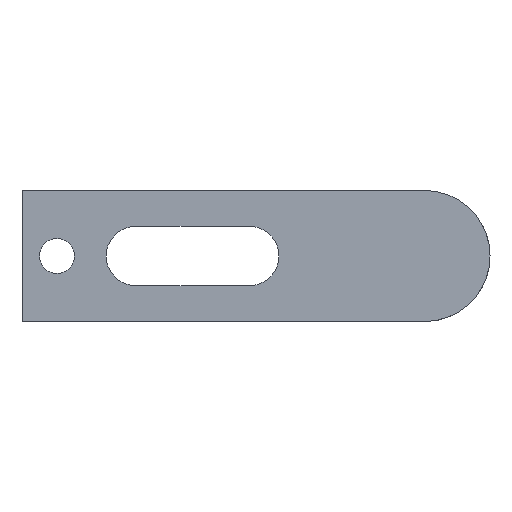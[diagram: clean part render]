
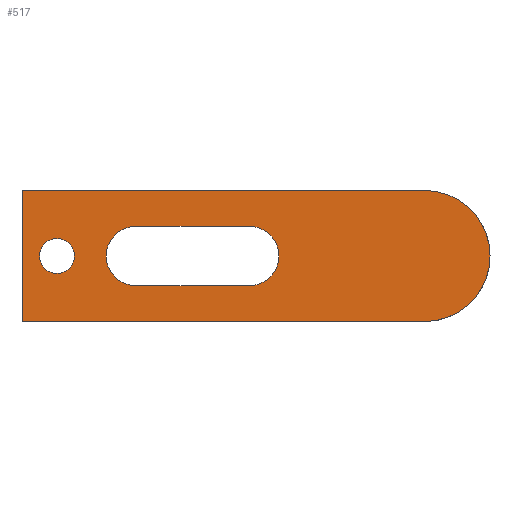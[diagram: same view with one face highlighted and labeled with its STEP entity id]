
A CAD part, front view. The second image highlights one B-rep face of the part: STEP entity #517.
In plain terms, the highlighted planar face has unit normal (0, -1, 0).
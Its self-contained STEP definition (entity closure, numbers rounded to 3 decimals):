
#290=CARTESIAN_POINT('Vertex',(-15.,0.,15.)) ;
#293=CARTESIAN_POINT('Axis2P3D Location',(-15.,0.,0.)) ;
#297=CARTESIAN_POINT('Vertex',(-15.,0.,-15.)) ;
#399=CARTESIAN_POINT('Line Origine',(-61.,0.,15.)) ;
#403=CARTESIAN_POINT('Vertex',(-107.,0.,15.)) ;
#426=CARTESIAN_POINT('Axis2P3D Location',(-107.,0.,15.)) ;
#431=CARTESIAN_POINT('Line Origine',(-61.,0.,-15.)) ;
#435=CARTESIAN_POINT('Vertex',(-107.,0.,-15.)) ;
#438=CARTESIAN_POINT('Line Origine',(-107.,0.,0.)) ;
#449=CARTESIAN_POINT('Axis2P3D Location',(-99.,0.,0.)) ;
#453=CARTESIAN_POINT('Vertex',(-95.,0.,0.)) ;
#455=CARTESIAN_POINT('Vertex',(-99.,0.,-4.)) ;
#458=CARTESIAN_POINT('Axis2P3D Location',(-99.,0.,0.)) ;
#462=CARTESIAN_POINT('Vertex',(-103.,0.,0.)) ;
#465=CARTESIAN_POINT('Axis2P3D Location',(-99.,0.,0.)) ;
#469=CARTESIAN_POINT('Vertex',(-99.,0.,4.)) ;
#472=CARTESIAN_POINT('Axis2P3D Location',(-99.,0.,0.)) ;
#483=CARTESIAN_POINT('Line Origine',(-68.,0.,-6.75)) ;
#487=CARTESIAN_POINT('Vertex',(-55.,0.,-6.75)) ;
#489=CARTESIAN_POINT('Vertex',(-81.,0.,-6.75)) ;
#492=CARTESIAN_POINT('Axis2P3D Location',(-81.,0.,0.)) ;
#496=CARTESIAN_POINT('Vertex',(-81.,0.,6.75)) ;
#499=CARTESIAN_POINT('Line Origine',(-68.,0.,6.75)) ;
#503=CARTESIAN_POINT('Vertex',(-55.,0.,6.75)) ;
#506=CARTESIAN_POINT('Axis2P3D Location',(-55.,0.,0.)) ;
#294=DIRECTION('Axis2P3D Direction',(0.,1.,0.)) ;
#400=DIRECTION('Vector Direction',(1.,0.,0.)) ;
#427=DIRECTION('Axis2P3D Direction',(0.,1.,0.)) ;
#428=DIRECTION('Axis2P3D XDirection',(0.,-0.,1.)) ;
#432=DIRECTION('Vector Direction',(1.,0.,0.)) ;
#439=DIRECTION('Vector Direction',(0.,0.,-1.)) ;
#450=DIRECTION('Axis2P3D Direction',(0.,1.,0.)) ;
#459=DIRECTION('Axis2P3D Direction',(0.,1.,0.)) ;
#466=DIRECTION('Axis2P3D Direction',(0.,1.,0.)) ;
#473=DIRECTION('Axis2P3D Direction',(0.,1.,0.)) ;
#484=DIRECTION('Vector Direction',(-1.,0.,0.)) ;
#493=DIRECTION('Axis2P3D Direction',(0.,1.,0.)) ;
#500=DIRECTION('Vector Direction',(1.,0.,0.)) ;
#507=DIRECTION('Axis2P3D Direction',(0.,1.,0.)) ;
#295=AXIS2_PLACEMENT_3D('Circle Axis2P3D',#293,#294,$) ;
#429=AXIS2_PLACEMENT_3D('Plane Axis2P3D',#426,#427,#428) ;
#451=AXIS2_PLACEMENT_3D('Circle Axis2P3D',#449,#450,$) ;
#460=AXIS2_PLACEMENT_3D('Circle Axis2P3D',#458,#459,$) ;
#467=AXIS2_PLACEMENT_3D('Circle Axis2P3D',#465,#466,$) ;
#474=AXIS2_PLACEMENT_3D('Circle Axis2P3D',#472,#473,$) ;
#494=AXIS2_PLACEMENT_3D('Circle Axis2P3D',#492,#493,$) ;
#508=AXIS2_PLACEMENT_3D('Circle Axis2P3D',#506,#507,$) ;
#444=ORIENTED_EDGE('',*,*,#437,.T.) ;
#445=ORIENTED_EDGE('',*,*,#299,.F.) ;
#446=ORIENTED_EDGE('',*,*,#405,.F.) ;
#447=ORIENTED_EDGE('',*,*,#442,.T.) ;
#478=ORIENTED_EDGE('',*,*,#457,.T.) ;
#479=ORIENTED_EDGE('',*,*,#464,.T.) ;
#480=ORIENTED_EDGE('',*,*,#471,.T.) ;
#481=ORIENTED_EDGE('',*,*,#476,.T.) ;
#512=ORIENTED_EDGE('',*,*,#491,.T.) ;
#513=ORIENTED_EDGE('',*,*,#498,.T.) ;
#514=ORIENTED_EDGE('',*,*,#505,.T.) ;
#515=ORIENTED_EDGE('',*,*,#510,.T.) ;
#482=FACE_BOUND('',#477,.T.) ;
#516=FACE_BOUND('',#511,.T.) ;
#401=VECTOR('Line Direction',#400,1.) ;
#433=VECTOR('Line Direction',#432,1.) ;
#440=VECTOR('Line Direction',#439,1.) ;
#485=VECTOR('Line Direction',#484,1.) ;
#501=VECTOR('Line Direction',#500,1.) ;
#517=ADVANCED_FACE('702-5',(#448,#482,#516),#430,.F.) ;
#296=CIRCLE('generated circle',#295,15.) ;
#452=CIRCLE('generated circle',#451,4.) ;
#461=CIRCLE('generated circle',#460,4.) ;
#468=CIRCLE('generated circle',#467,4.) ;
#475=CIRCLE('generated circle',#474,4.) ;
#495=CIRCLE('generated circle',#494,6.75) ;
#509=CIRCLE('generated circle',#508,6.75) ;
#299=EDGE_CURVE('',#291,#298,#296,.T.) ;
#405=EDGE_CURVE('',#404,#291,#402,.T.) ;
#437=EDGE_CURVE('',#436,#298,#434,.T.) ;
#442=EDGE_CURVE('',#404,#436,#441,.T.) ;
#457=EDGE_CURVE('',#454,#456,#452,.T.) ;
#464=EDGE_CURVE('',#456,#463,#461,.T.) ;
#471=EDGE_CURVE('',#463,#470,#468,.T.) ;
#476=EDGE_CURVE('',#470,#454,#475,.T.) ;
#491=EDGE_CURVE('',#488,#490,#486,.T.) ;
#498=EDGE_CURVE('',#490,#497,#495,.T.) ;
#505=EDGE_CURVE('',#497,#504,#502,.T.) ;
#510=EDGE_CURVE('',#504,#488,#509,.T.) ;
#443=EDGE_LOOP('',(#444,#445,#446,#447)) ;
#477=EDGE_LOOP('',(#478,#479,#480,#481)) ;
#511=EDGE_LOOP('',(#512,#513,#514,#515)) ;
#448=FACE_OUTER_BOUND('',#443,.T.) ;
#402=LINE('Line',#399,#401) ;
#434=LINE('Line',#431,#433) ;
#441=LINE('Line',#438,#440) ;
#486=LINE('Line',#483,#485) ;
#502=LINE('Line',#499,#501) ;
#430=PLANE('Plane',#429) ;
#291=VERTEX_POINT('',#290) ;
#298=VERTEX_POINT('',#297) ;
#404=VERTEX_POINT('',#403) ;
#436=VERTEX_POINT('',#435) ;
#454=VERTEX_POINT('',#453) ;
#456=VERTEX_POINT('',#455) ;
#463=VERTEX_POINT('',#462) ;
#470=VERTEX_POINT('',#469) ;
#488=VERTEX_POINT('',#487) ;
#490=VERTEX_POINT('',#489) ;
#497=VERTEX_POINT('',#496) ;
#504=VERTEX_POINT('',#503) ;
